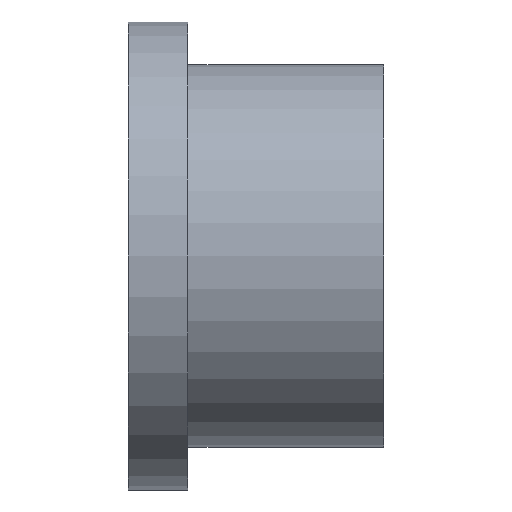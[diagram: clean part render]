
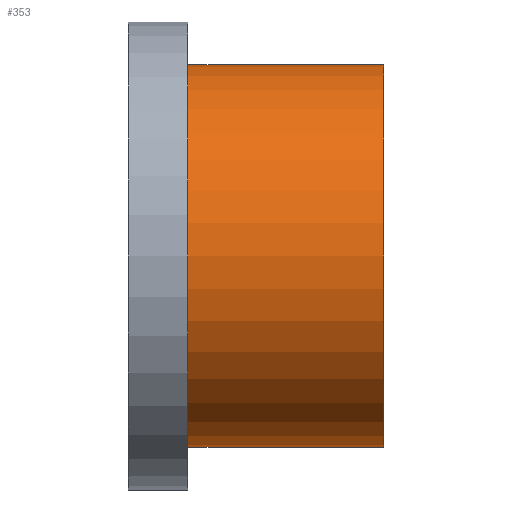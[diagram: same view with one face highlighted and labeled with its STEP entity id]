
A CAD part, front view. The second image highlights one B-rep face of the part: STEP entity #353.
In plain terms, the highlighted cylindrical face has radius 45 mm (diameter 90 mm), a partial arc.
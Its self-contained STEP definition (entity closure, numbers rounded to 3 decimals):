
#4 = DIRECTION ( 'NONE',  ( 0., 0., 1. ) ) ;
#45 = AXIS2_PLACEMENT_3D ( 'NONE', #373, #111, #425 ) ;
#54 = LINE ( 'NONE', #543, #78 ) ;
#77 = DIRECTION ( 'NONE',  ( -1., 0., 0. ) ) ;
#78 = VECTOR ( 'NONE', #239, 1000. ) ;
#86 = VECTOR ( 'NONE', #77, 1000. ) ;
#87 = LINE ( 'NONE', #340, #86 ) ;
#96 = EDGE_CURVE ( 'NONE', #369, #481, #87, .T. ) ;
#111 = DIRECTION ( 'NONE',  ( -1., 0., 0. ) ) ;
#116 = ORIENTED_EDGE ( 'NONE', *, *, #201, .F. ) ;
#145 = ORIENTED_EDGE ( 'NONE', *, *, #516, .F. ) ;
#187 = EDGE_LOOP ( 'NONE', ( #116, #441, #500, #145 ) ) ;
#201 = EDGE_CURVE ( 'NONE', #294, #442, #54, .T. ) ;
#239 = DIRECTION ( 'NONE',  ( -1., 0., 0. ) ) ;
#246 = CARTESIAN_POINT ( 'NONE',  ( 60., 0., -45. ) ) ;
#251 = DIRECTION ( 'NONE',  ( -1., 0., 0. ) ) ;
#285 = CARTESIAN_POINT ( 'NONE',  ( 0., 0., 0. ) ) ;
#289 = DIRECTION ( 'NONE',  ( -1., 0., 0. ) ) ;
#294 = VERTEX_POINT ( 'NONE', #246 ) ;
#319 = CARTESIAN_POINT ( 'NONE',  ( 14., 0., -45. ) ) ;
#340 = CARTESIAN_POINT ( 'NONE',  ( 0., 0., 45. ) ) ;
#353 = ADVANCED_FACE ( 'NONE', ( #364 ), #546, .T. ) ;
#364 = FACE_OUTER_BOUND ( 'NONE', #187, .T. ) ;
#369 = VERTEX_POINT ( 'NONE', #554 ) ;
#373 = CARTESIAN_POINT ( 'NONE',  ( 14., 0., 0. ) ) ;
#374 = CIRCLE ( 'NONE', #45, 45. ) ;
#417 = EDGE_CURVE ( 'NONE', #294, #369, #566, .T. ) ;
#424 = AXIS2_PLACEMENT_3D ( 'NONE', #285, #251, #589 ) ;
#425 = DIRECTION ( 'NONE',  ( 0., 0., 1. ) ) ;
#441 = ORIENTED_EDGE ( 'NONE', *, *, #417, .T. ) ;
#442 = VERTEX_POINT ( 'NONE', #319 ) ;
#460 = AXIS2_PLACEMENT_3D ( 'NONE', #555, #289, #4 ) ;
#481 = VERTEX_POINT ( 'NONE', #521 ) ;
#500 = ORIENTED_EDGE ( 'NONE', *, *, #96, .T. ) ;
#516 = EDGE_CURVE ( 'NONE', #442, #481, #374, .T. ) ;
#521 = CARTESIAN_POINT ( 'NONE',  ( 14., 0., 45. ) ) ;
#543 = CARTESIAN_POINT ( 'NONE',  ( 0., 0., -45. ) ) ;
#546 = CYLINDRICAL_SURFACE ( 'NONE', #424, 45. ) ;
#554 = CARTESIAN_POINT ( 'NONE',  ( 60., 0., 45. ) ) ;
#555 = CARTESIAN_POINT ( 'NONE',  ( 60., 0., 0. ) ) ;
#566 = CIRCLE ( 'NONE', #460, 45. ) ;
#589 = DIRECTION ( 'NONE',  ( 0., 0., 1. ) ) ;
